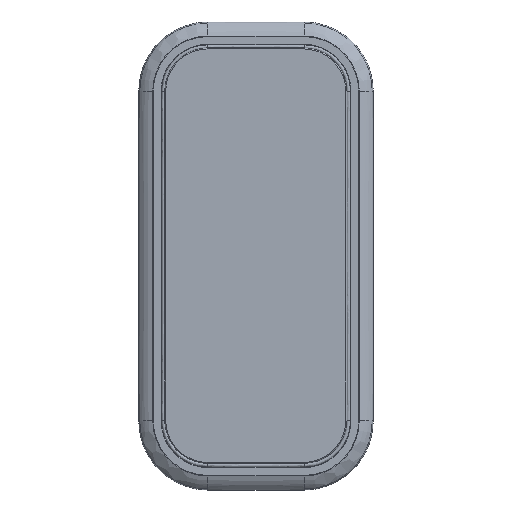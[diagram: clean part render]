
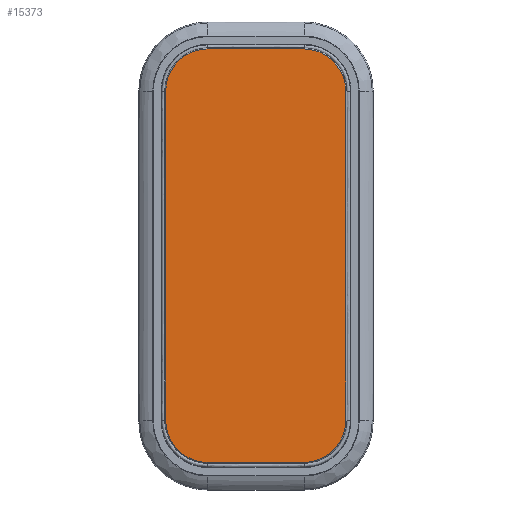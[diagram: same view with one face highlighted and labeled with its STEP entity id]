
A CAD part, top view. The second image highlights one B-rep face of the part: STEP entity #15373.
In plain terms, the highlighted planar face has unit normal (0, 0, 1) as drawn and (0, 1, 0) by its records, which use the part's own axes.
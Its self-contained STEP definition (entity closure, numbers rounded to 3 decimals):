
#14630=DIRECTION('',(-1.,0.,0.));
#14631=VECTOR('',#14630,345.);
#14632=CARTESIAN_POINT('',(172.5,8.,-94.5));
#14633=LINE('',#14632,#14631);
#14634=CARTESIAN_POINT('',(172.5,8.,-50.));
#14635=DIRECTION('',(0.,1.,0.));
#14636=DIRECTION('',(1.,0.,0.));
#14637=AXIS2_PLACEMENT_3D('',#14634,#14635,#14636);
#14639=DIRECTION('',(0.,0.,-1.));
#14640=VECTOR('',#14639,100.);
#14641=CARTESIAN_POINT('',(217.,8.,50.));
#14642=LINE('',#14641,#14640);
#14643=CARTESIAN_POINT('',(172.5,8.,50.));
#14644=DIRECTION('',(0.,1.,0.));
#14645=DIRECTION('',(0.,0.,1.));
#14646=AXIS2_PLACEMENT_3D('',#14643,#14644,#14645);
#14648=DIRECTION('',(1.,0.,0.));
#14649=VECTOR('',#14648,345.);
#14650=CARTESIAN_POINT('',(-172.5,8.,94.5));
#14651=LINE('',#14650,#14649);
#14652=CARTESIAN_POINT('',(-172.5,8.,50.));
#14653=DIRECTION('',(0.,1.,0.));
#14654=DIRECTION('',(-1.,0.,0.));
#14655=AXIS2_PLACEMENT_3D('',#14652,#14653,#14654);
#14657=DIRECTION('',(0.,0.,1.));
#14658=VECTOR('',#14657,100.);
#14659=CARTESIAN_POINT('',(-217.,8.,-50.));
#14660=LINE('',#14659,#14658);
#14661=CARTESIAN_POINT('',(-172.5,8.,-50.));
#14662=DIRECTION('',(0.,1.,0.));
#14663=DIRECTION('',(0.,0.,-1.));
#14664=AXIS2_PLACEMENT_3D('',#14661,#14662,#14663);
#15294=CARTESIAN_POINT('',(172.5,8.,-94.5));
#15295=CARTESIAN_POINT('',(-172.5,8.,-94.5));
#15296=VERTEX_POINT('',#15294);
#15297=VERTEX_POINT('',#15295);
#15298=CARTESIAN_POINT('',(-217.,8.,-50.));
#15299=VERTEX_POINT('',#15298);
#15300=CARTESIAN_POINT('',(-217.,8.,50.));
#15301=VERTEX_POINT('',#15300);
#15302=CARTESIAN_POINT('',(-172.5,8.,94.5));
#15303=VERTEX_POINT('',#15302);
#15304=CARTESIAN_POINT('',(172.5,8.,94.5));
#15305=VERTEX_POINT('',#15304);
#15306=CARTESIAN_POINT('',(217.,8.,50.));
#15307=VERTEX_POINT('',#15306);
#15308=CARTESIAN_POINT('',(217.,8.,-50.));
#15309=VERTEX_POINT('',#15308);
#15350=CARTESIAN_POINT('',(0.,8.,0.));
#15351=DIRECTION('',(0.,1.,0.));
#15352=DIRECTION('',(1.,0.,0.));
#15353=AXIS2_PLACEMENT_3D('',#15350,#15351,#15352);
#15354=PLANE('',#15353);
#15356=ORIENTED_EDGE('',*,*,#15355,.F.);
#15358=ORIENTED_EDGE('',*,*,#15357,.F.);
#15360=ORIENTED_EDGE('',*,*,#15359,.F.);
#15362=ORIENTED_EDGE('',*,*,#15361,.F.);
#15364=ORIENTED_EDGE('',*,*,#15363,.F.);
#15366=ORIENTED_EDGE('',*,*,#15365,.F.);
#15368=ORIENTED_EDGE('',*,*,#15367,.F.);
#15370=ORIENTED_EDGE('',*,*,#15369,.F.);
#15371=EDGE_LOOP('',(#15356,#15358,#15360,#15362,#15364,#15366,#15368,#15370));
#15372=FACE_OUTER_BOUND('',#15371,.F.);
#15373=ADVANCED_FACE('',(#15372),#15354,.T.);
#14638=CIRCLE('',#14637,44.5);
#14647=CIRCLE('',#14646,44.5);
#14656=CIRCLE('',#14655,44.5);
#14665=CIRCLE('',#14664,44.5);
#15355=EDGE_CURVE('',#15296,#15297,#14633,.T.);
#15357=EDGE_CURVE('',#15309,#15296,#14638,.T.);
#15359=EDGE_CURVE('',#15307,#15309,#14642,.T.);
#15361=EDGE_CURVE('',#15305,#15307,#14647,.T.);
#15363=EDGE_CURVE('',#15303,#15305,#14651,.T.);
#15365=EDGE_CURVE('',#15301,#15303,#14656,.T.);
#15367=EDGE_CURVE('',#15299,#15301,#14660,.T.);
#15369=EDGE_CURVE('',#15297,#15299,#14665,.T.);
